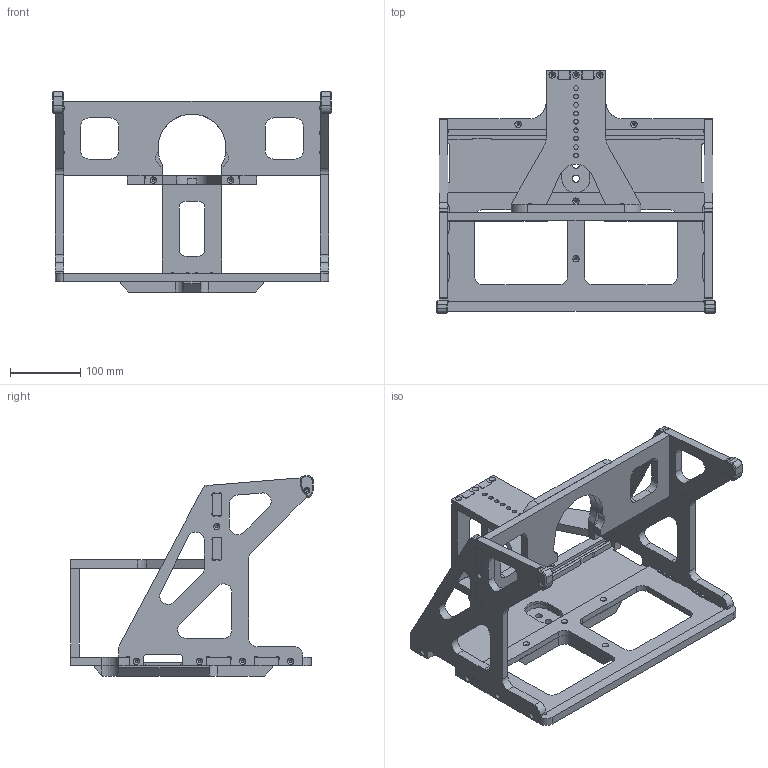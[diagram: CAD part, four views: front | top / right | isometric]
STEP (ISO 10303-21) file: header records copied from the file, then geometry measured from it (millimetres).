
FILE_DESCRIPTION(/* description */ ('','CAx-IF Rec.Pracs.---Representation and Presentation of Product Manufacturing Information (PMI)---4.0---2014-10-13'),/* implementation_level */ '2;1');
FILE_NAME(/* name */ 'Teleprompter-Multi v28.step',/* time_stamp */ '2024-12-17T12:11:34+01:00',/* author */ (''),/* organization */ (''),/* preprocessor_version */ 'ST-DEVELOPER v20',/* originating_system */ 'Autodesk Translation Framework v13.20.0.188',/* authorisation */ '');
FILE_SCHEMA (('AP242_MANAGED_MODEL_BASED_3D_ENGINEERING_MIM_LF { 1 0 10303 442 1 1 4 }'));
Length unit declared in the file: millimetre
Products named in the file (1): Teleprompter-Multi
Bounding box: 397 x 345.36 x 285 mm (x, y, z)
Volume: 2494067.4 mm3; surface area: 625855.9 mm2
Topology: 10 solids, 10 shells, 646 faces, 1803 edges, 1177 vertices
Faces by surface type: plane 357, cylinder 235, cone 54
Full cylindrical faces by diameter (mm): 3 x38, 4 x6, 6.5 x9, 10.1 x2
Entity records: 21043 total; most frequent: DIRECTION 3642, CARTESIAN_POINT 3627, ORIENTED_EDGE 3606, EDGE_CURVE 1803, LINE 1258, VECTOR 1258, AXIS2_PLACEMENT_3D 1192, VERTEX_POINT 1177
